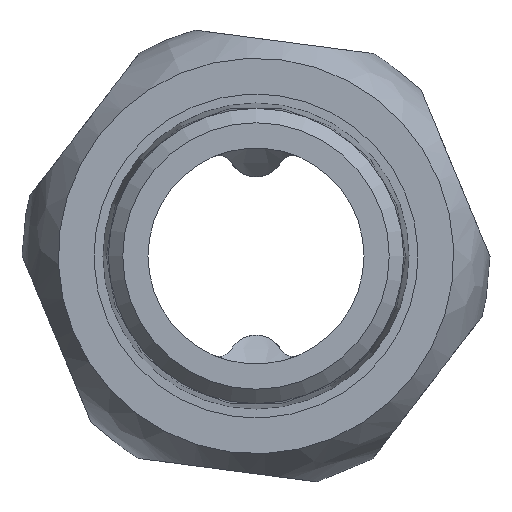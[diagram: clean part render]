
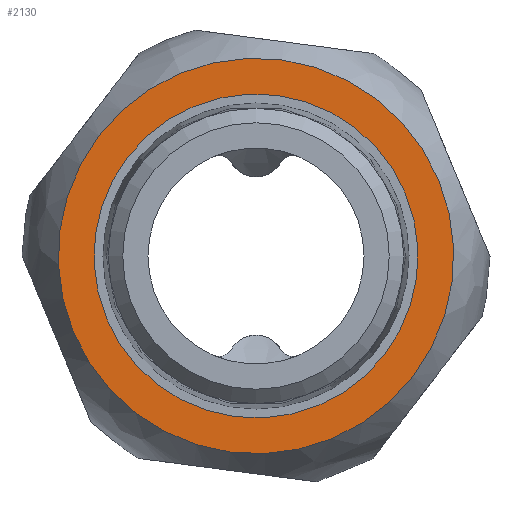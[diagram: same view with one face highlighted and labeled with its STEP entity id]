
A CAD part, left-side view. The second image highlights one B-rep face of the part: STEP entity #2130.
In plain terms, the highlighted planar face has unit normal (-1, 0, 0).
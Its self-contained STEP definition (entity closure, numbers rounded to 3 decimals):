
#2027=CARTESIAN_POINT('',(0.0,13.735,0.0));
#2028=VERTEX_POINT('',#2027);
#2029=CARTESIAN_POINT('',(0.0,0.0,0.0));
#2030=DIRECTION('',(1.0,0.0,0.0));
#2031=DIRECTION('',(0.0,1.0,0.0));
#2032=AXIS2_PLACEMENT_3D('',#2029,#2030,#2031);
#2033=CIRCLE('',#2032,13.735);
#2034=EDGE_CURVE('',#2028,#2028,#2033,.T.);
#2104=CARTESIAN_POINT('',(0.0,11.25,0.0));
#2105=VERTEX_POINT('',#2104);
#2106=CARTESIAN_POINT('',(0.0,0.0,0.0));
#2107=DIRECTION('',(1.0,0.0,0.0));
#2108=DIRECTION('',(0.0,1.0,0.0));
#2109=AXIS2_PLACEMENT_3D('',#2106,#2107,#2108);
#2110=CIRCLE('',#2109,11.25);
#2111=EDGE_CURVE('',#2105,#2105,#2110,.T.);
#2119=CARTESIAN_POINT('',(0.0,12.493,0.0));
#2120=DIRECTION('',(-1.0,0.0,0.0));
#2121=DIRECTION('',(0.0,0.0,1.0));
#2122=AXIS2_PLACEMENT_3D('',#2119,#2120,#2121);
#2123=PLANE('',#2122);
#2124=ORIENTED_EDGE('',*,*,#2034,.F.);
#2125=EDGE_LOOP('',(#2124));
#2126=FACE_OUTER_BOUND('',#2125,.T.);
#2127=ORIENTED_EDGE('',*,*,#2111,.T.);
#2128=EDGE_LOOP('',(#2127));
#2129=FACE_BOUND('',#2128,.T.);
#2130=ADVANCED_FACE('',(#2126,#2129),#2123,.T.);
